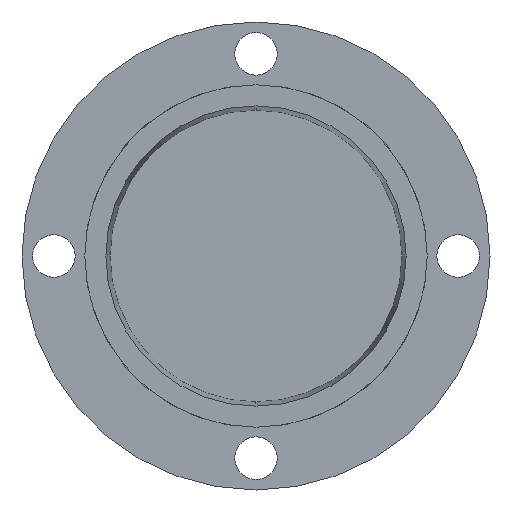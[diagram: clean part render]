
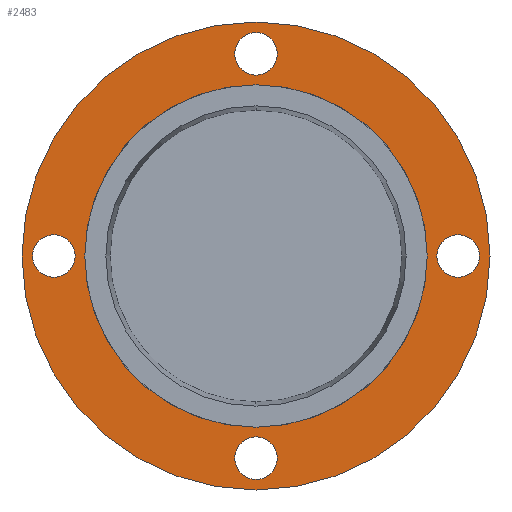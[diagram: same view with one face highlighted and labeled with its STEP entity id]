
A CAD part, left-side view. The second image highlights one B-rep face of the part: STEP entity #2483.
In plain terms, the highlighted planar face has unit normal (-1, 0, 0).
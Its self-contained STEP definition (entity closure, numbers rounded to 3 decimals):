
#2 = DIRECTION ( 'NONE',  ( 0., 1., 0. ) ) ;
#3 = CARTESIAN_POINT ( 'NONE',  ( -2.5, -47.5, 0. ) ) ;
#4 = DIRECTION ( 'NONE',  ( 1., 0., 0. ) ) ;
#5 = DIRECTION ( 'NONE',  ( 0., 0., 1. ) ) ;
#6 = CARTESIAN_POINT ( 'NONE',  ( -2.5, 0., -47.5 ) ) ;
#7 = DIRECTION ( 'NONE',  ( 1., 0., 0. ) ) ;
#8 = DIRECTION ( 'NONE',  ( 0., -1., 0. ) ) ;
#9 = CARTESIAN_POINT ( 'NONE',  ( -2.5, 47.5, 0. ) ) ;
#10 = DIRECTION ( 'NONE',  ( 1., 0., 0. ) ) ;
#11 = DIRECTION ( 'NONE',  ( 0., 0., -1. ) ) ;
#12 = CARTESIAN_POINT ( 'NONE',  ( -2.5, 0., 0. ) ) ;
#13 = DIRECTION ( 'NONE',  ( -1., 0., 0. ) ) ;
#14 = DIRECTION ( 'NONE',  ( 0., 0., 1. ) ) ;
#306 = EDGE_LOOP ( 'NONE', ( #631, #633 ) ) ;
#310 = EDGE_LOOP ( 'NONE', ( #634, #635 ) ) ;
#339 = EDGE_LOOP ( 'NONE', ( #625, #626 ) ) ;
#355 = EDGE_LOOP ( 'NONE', ( #623, #624 ) ) ;
#476 = AXIS2_PLACEMENT_3D ( 'NONE', #5163, #5164, #2 ) ;
#477 = AXIS2_PLACEMENT_3D ( 'NONE', #3, #4, #5 ) ;
#478 = AXIS2_PLACEMENT_3D ( 'NONE', #6, #7, #8 ) ;
#479 = AXIS2_PLACEMENT_3D ( 'NONE', #9, #10, #11 ) ;
#480 = AXIS2_PLACEMENT_3D ( 'NONE', #12, #13, #14 ) ;
#623 = ORIENTED_EDGE ( 'NONE', *, *, #775, .T. ) ;
#624 = ORIENTED_EDGE ( 'NONE', *, *, #4222, .T. ) ;
#625 = ORIENTED_EDGE ( 'NONE', *, *, #776, .T. ) ;
#626 = ORIENTED_EDGE ( 'NONE', *, *, #4220, .T. ) ;
#627 = ORIENTED_EDGE ( 'NONE', *, *, #777, .T. ) ;
#628 = ORIENTED_EDGE ( 'NONE', *, *, #4233, .T. ) ;
#629 = ORIENTED_EDGE ( 'NONE', *, *, #778, .T. ) ;
#630 = ORIENTED_EDGE ( 'NONE', *, *, #4230, .T. ) ;
#631 = ORIENTED_EDGE ( 'NONE', *, *, #779, .F. ) ;
#633 = ORIENTED_EDGE ( 'NONE', *, *, #4232, .F. ) ;
#634 = ORIENTED_EDGE ( 'NONE', *, *, #773, .T. ) ;
#635 = ORIENTED_EDGE ( 'NONE', *, *, #4224, .T. ) ;
#773 = EDGE_CURVE ( 'NONE', #1444, #1449, #5276, .T. ) ;
#775 = EDGE_CURVE ( 'NONE', #2157, #2142, #5277, .T. ) ;
#776 = EDGE_CURVE ( 'NONE', #2136, #2135, #5278, .T. ) ;
#777 = EDGE_CURVE ( 'NONE', #2154, #2134, #5279, .T. ) ;
#778 = EDGE_CURVE ( 'NONE', #2148, #2147, #5280, .T. ) ;
#779 = EDGE_CURVE ( 'NONE', #2138, #2137, #5281, .T. ) ;
#813 = AXIS2_PLACEMENT_3D ( 'NONE', #5157, #5158, #5159 ) ;
#947 = EDGE_LOOP ( 'NONE', ( #627, #628 ) ) ;
#958 = EDGE_LOOP ( 'NONE', ( #629, #630 ) ) ;
#1218 = CIRCLE ( 'NONE', #3677, 5. ) ;
#1221 = CIRCLE ( 'NONE', #3676, 5. ) ;
#1227 = CIRCLE ( 'NONE', #3679, 55. ) ;
#1235 = CIRCLE ( 'NONE', #3683, 5. ) ;
#1237 = CIRCLE ( 'NONE', #3684, 40.25 ) ;
#1239 = CIRCLE ( 'NONE', #3685, 5. ) ;
#1444 = VERTEX_POINT ( 'NONE', #1963 ) ;
#1449 = VERTEX_POINT ( 'NONE', #1964 ) ;
#1963 = CARTESIAN_POINT ( 'NONE',  ( -2.5, 0., -55. ) ) ;
#1964 = CARTESIAN_POINT ( 'NONE',  ( -2.5, 0., 55. ) ) ;
#1965 = CARTESIAN_POINT ( 'NONE',  ( -2.5, -47.5, 5. ) ) ;
#1970 = CARTESIAN_POINT ( 'NONE',  ( -2.5, 0., -40.25 ) ) ;
#1988 = CARTESIAN_POINT ( 'NONE',  ( -2.5, 0., -42.5 ) ) ;
#1989 = CARTESIAN_POINT ( 'NONE',  ( -2.5, -47.5, -5. ) ) ;
#1990 = CARTESIAN_POINT ( 'NONE',  ( -2.5, 0., 40.25 ) ) ;
#1994 = CARTESIAN_POINT ( 'NONE',  ( -2.5, 0., 52.5 ) ) ;
#1999 = CARTESIAN_POINT ( 'NONE',  ( -2.5, 47.5, 5. ) ) ;
#2000 = CARTESIAN_POINT ( 'NONE',  ( -2.5, 47.5, -5. ) ) ;
#2006 = CARTESIAN_POINT ( 'NONE',  ( -2.5, 0., -52.5 ) ) ;
#2009 = CARTESIAN_POINT ( 'NONE',  ( -2.5, 0., 42.5 ) ) ;
#2134 = VERTEX_POINT ( 'NONE', #1988 ) ;
#2135 = VERTEX_POINT ( 'NONE', #1965 ) ;
#2136 = VERTEX_POINT ( 'NONE', #1989 ) ;
#2137 = VERTEX_POINT ( 'NONE', #1970 ) ;
#2138 = VERTEX_POINT ( 'NONE', #1990 ) ;
#2142 = VERTEX_POINT ( 'NONE', #1994 ) ;
#2147 = VERTEX_POINT ( 'NONE', #1999 ) ;
#2148 = VERTEX_POINT ( 'NONE', #2000 ) ;
#2154 = VERTEX_POINT ( 'NONE', #2006 ) ;
#2157 = VERTEX_POINT ( 'NONE', #2009 ) ;
#2343 = FACE_BOUND ( 'NONE', #355, .T. ) ;
#2344 = FACE_BOUND ( 'NONE', #947, .T. ) ;
#2345 = FACE_BOUND ( 'NONE', #306, .T. ) ;
#2346 = FACE_BOUND ( 'NONE', #339, .T. ) ;
#2347 = FACE_BOUND ( 'NONE', #958, .T. ) ;
#2348 = FACE_OUTER_BOUND ( 'NONE', #310, .T. ) ;
#2483 = ADVANCED_FACE ( 'NONE', ( #2343, #2346, #2344, #2347, #2345, #2348 ), #3587, .T. ) ;
#3586 = DIRECTION ( 'NONE',  ( -1., 0., 0. ) ) ;
#3587 = PLANE ( 'NONE',  #3643 ) ;
#3625 = CARTESIAN_POINT ( 'NONE',  ( -2.5, 0., 0. ) ) ;
#3627 = DIRECTION ( 'NONE',  ( 0., 0., 1. ) ) ;
#3643 = AXIS2_PLACEMENT_3D ( 'NONE', #3625, #3586, #3627 ) ;
#3676 = AXIS2_PLACEMENT_3D ( 'NONE', #3841, #3842, #3843 ) ;
#3677 = AXIS2_PLACEMENT_3D ( 'NONE', #3844, #3845, #3846 ) ;
#3679 = AXIS2_PLACEMENT_3D ( 'NONE', #3852, #3853, #3854 ) ;
#3683 = AXIS2_PLACEMENT_3D ( 'NONE', #3868, #3869, #3870 ) ;
#3684 = AXIS2_PLACEMENT_3D ( 'NONE', #3871, #3872, #3873 ) ;
#3685 = AXIS2_PLACEMENT_3D ( 'NONE', #3876, #3877, #3878 ) ;
#3841 = CARTESIAN_POINT ( 'NONE',  ( -2.5, -47.5, 0. ) ) ;
#3842 = DIRECTION ( 'NONE',  ( 1., 0., 0. ) ) ;
#3843 = DIRECTION ( 'NONE',  ( 0., 0., 1. ) ) ;
#3844 = CARTESIAN_POINT ( 'NONE',  ( -2.5, 0., 47.5 ) ) ;
#3845 = DIRECTION ( 'NONE',  ( 1., 0., 0. ) ) ;
#3846 = DIRECTION ( 'NONE',  ( 0., 1., 0. ) ) ;
#3852 = CARTESIAN_POINT ( 'NONE',  ( -2.5, 0., 0. ) ) ;
#3853 = DIRECTION ( 'NONE',  ( -1., 0., 0. ) ) ;
#3854 = DIRECTION ( 'NONE',  ( 0., 0., 1. ) ) ;
#3868 = CARTESIAN_POINT ( 'NONE',  ( -2.5, 47.5, 0. ) ) ;
#3869 = DIRECTION ( 'NONE',  ( 1., 0., 0. ) ) ;
#3870 = DIRECTION ( 'NONE',  ( 0., 0., -1. ) ) ;
#3871 = CARTESIAN_POINT ( 'NONE',  ( -2.5, 0., 0. ) ) ;
#3872 = DIRECTION ( 'NONE',  ( -1., 0., 0. ) ) ;
#3873 = DIRECTION ( 'NONE',  ( 0., 0., 1. ) ) ;
#3876 = CARTESIAN_POINT ( 'NONE',  ( -2.5, 0., -47.5 ) ) ;
#3877 = DIRECTION ( 'NONE',  ( 1., 0., 0. ) ) ;
#3878 = DIRECTION ( 'NONE',  ( 0., -1., 0. ) ) ;
#4220 = EDGE_CURVE ( 'NONE', #2135, #2136, #1221, .T. ) ;
#4222 = EDGE_CURVE ( 'NONE', #2142, #2157, #1218, .T. ) ;
#4224 = EDGE_CURVE ( 'NONE', #1449, #1444, #1227, .T. ) ;
#4230 = EDGE_CURVE ( 'NONE', #2147, #2148, #1235, .T. ) ;
#4232 = EDGE_CURVE ( 'NONE', #2137, #2138, #1237, .T. ) ;
#4233 = EDGE_CURVE ( 'NONE', #2134, #2154, #1239, .T. ) ;
#5157 = CARTESIAN_POINT ( 'NONE',  ( -2.5, 0., 0. ) ) ;
#5158 = DIRECTION ( 'NONE',  ( -1., 0., 0. ) ) ;
#5159 = DIRECTION ( 'NONE',  ( 0., 0., 1. ) ) ;
#5163 = CARTESIAN_POINT ( 'NONE',  ( -2.5, 0., 47.5 ) ) ;
#5164 = DIRECTION ( 'NONE',  ( 1., 0., 0. ) ) ;
#5276 = CIRCLE ( 'NONE', #813, 55. ) ;
#5277 = CIRCLE ( 'NONE', #476, 5. ) ;
#5278 = CIRCLE ( 'NONE', #477, 5. ) ;
#5279 = CIRCLE ( 'NONE', #478, 5. ) ;
#5280 = CIRCLE ( 'NONE', #479, 5. ) ;
#5281 = CIRCLE ( 'NONE', #480, 40.25 ) ;
